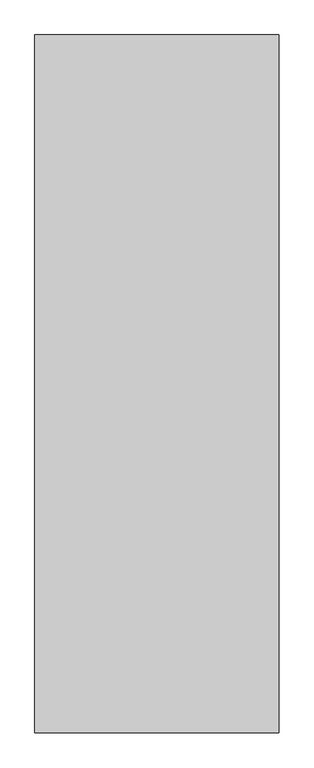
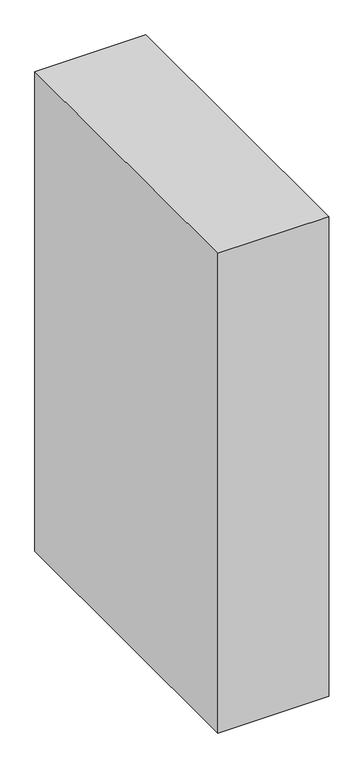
"""IFC4 building model written with IfcOpenShell, lengths in millimetres: column geometry, M_混凝土-矩形-柱 : RC柱70*200."""

from ifc_helpers import new_model, si_unit, frame, origin, place, context, project, spatial, polyline, outline, extrude, source, transform, mapped, element, save


def column_64389fab(model_context):
    return source(origin(), model_context, "Body", "SweptSolid", [
        extrude(outline(polyline([(350.0, 1000.0), (350.0, -1000.0), (-350.0, -1000.0), (-350.0, 1000.0), (350.0, 1000.0)])), frame((0.0, 0.0, 8000.0), z_axis=(0.0, 0.0, 1.0), x_axis=(1.0, 0.0, 0.0)), (0.0, 0.0, 1.0), 3200.0),
    ])


if __name__ == "__main__":
    model = new_model("IFC4")
    model_context = context("Model", 3, world=origin())
    ifc_project = project(units=[si_unit("LENGTHUNIT", "METRE", prefix="MILLI")], contexts=[model_context])
    site = spatial("IfcSite", under=ifc_project)
    building = spatial("IfcBuilding", under=site)
    placement = place(None, origin())
    column_shape = column_64389fab(model_context)
    element("IfcColumn", 1, ObjectType="M_混凝土-矩形-柱 : RC柱70*200", at=placement, inside=building, context=model_context, shape_type="MappedRepresentation", body=[
        mapped(column_shape, transform((0.0, 0.0, 0.0), x_axis=(1.0, 0.0, 0.0), y_axis=(0.0, 1.0, 0.0), z_axis=(0.0, 0.0, 1.0))),
    ])
    save(model, "model.ifc")
